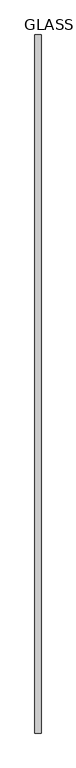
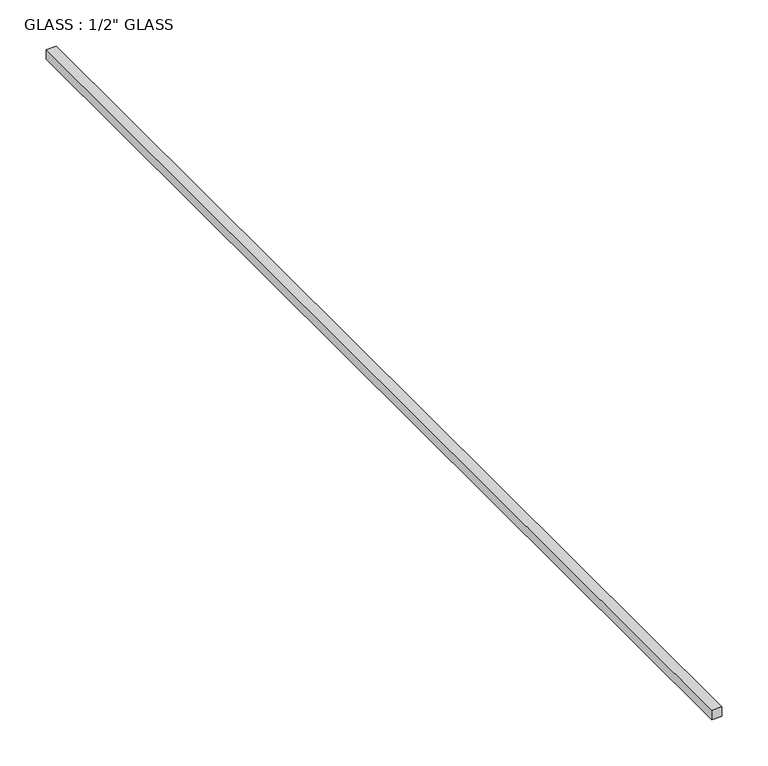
"""IFC4 building model written with IfcOpenShell, lengths in millimetres: proxy geometry."""

from ifc_helpers import new_model, si_unit, frame, origin, place, context, project, spatial, polyline, outline, extrude, source, transform, mapped, element, save


def proxy_1c5ac6ef(model_context):
    return source(origin(), model_context, "Body", "SweptSolid", [
        extrude(outline(polyline([(-6.35, 0.0), (6.35, 0.0), (6.35, -1437.0117724), (-6.35, -1437.0117724), (-6.35, 0.0)])), frame((0.0, 0.0, -6.35), z_axis=(0.0, 0.0, 1.0), x_axis=(1.0, 0.0, 0.0)), (0.0, 0.0, 1.0), 12.7),
    ])


if __name__ == "__main__":
    model = new_model("IFC4")
    model_context = context("Model", 3, world=origin())
    ifc_project = project(units=[si_unit("LENGTHUNIT", "METRE", prefix="MILLI")], contexts=[model_context])
    site = spatial("IfcSite", under=ifc_project)
    building = spatial("IfcBuilding", under=site)
    placement = place(None, origin())
    proxy_shape = proxy_1c5ac6ef(model_context)
    element("IfcBuildingElementProxy", 1, Name="GLASS : 1/2\" GLASS", ObjectType="GLASS : 1/2\" GLASS", at=placement, inside=building, context=model_context, shape_type="MappedRepresentation", body=[
        mapped(proxy_shape, transform((0.0, 0.0, 0.0), x_axis=(1.0, 0.0, 0.0), y_axis=(0.0, 1.0, 0.0), z_axis=(0.0, 0.0, 1.0))),
    ])
    save(model, "model.ifc")
